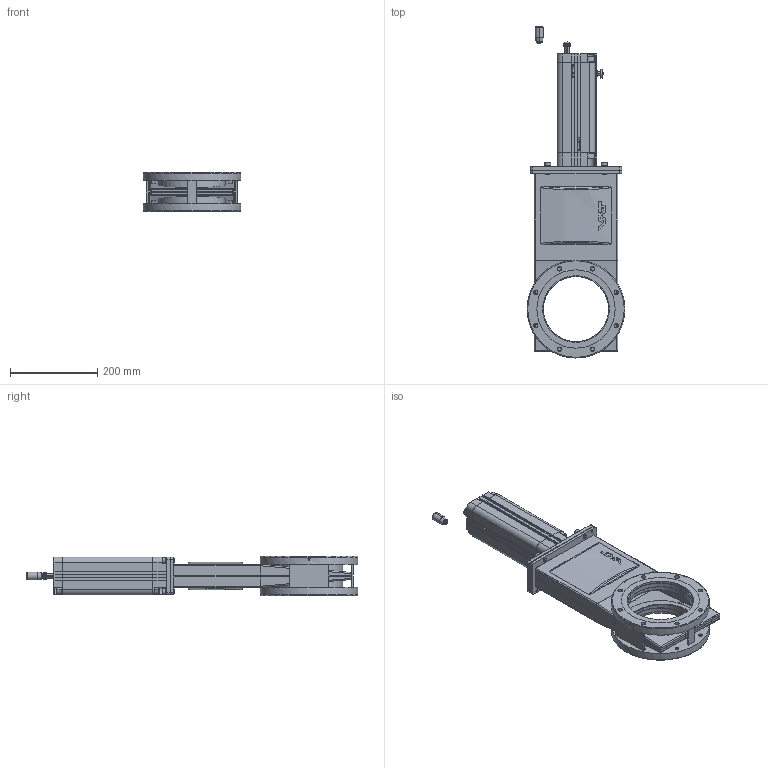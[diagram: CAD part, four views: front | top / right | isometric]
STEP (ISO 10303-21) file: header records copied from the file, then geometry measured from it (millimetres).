
FILE_DESCRIPTION(/* description */ (''),/* implementation_level */ '2;1');
FILE_NAME(/* name */ '1007055321_203.stp',/* time_stamp */ '2009-12-04T09:00:00+01:00',/* author */ (''),/* organization */ (''),/* preprocessor_version */ 'ST-DEVELOPER v11',/* originating_system */ 'UGS - NX 5.0',/* authorisation */ '');
FILE_SCHEMA (('CONFIG_CONTROL_DESIGN'));
Length unit declared in the file: millimetre
Products named in the file (37): 261361.5; 339067.1; 301626.1; 255736.1; 255802.2; n-6131-414; n-6195-408; N-6092-038.1; N-6066-009.1; 260826.1; 261365.3; 259431.1; 261368.5; 261364.3; 335391.1; 261363.3; 332689.2; 301646.1; 261369.1; 255792.2; 313588.1; 255788.2; 307166.2; 307161.2; 255781.4; 261336.1; N-6092-118.1; 255217.1; 228777; n-6134-409.1; 255558.4; 261362.6; 348483.1; 255803.6; 313594.3; 261337.1; 415447
Assembly tree (52 placements, depth 4):
  415447
    255558.4
    261337.1
      N-6092-118.1  x2
      261336.1
    n-6134-409.1  x4
    228777  x4
    313594.3
      255781.4
      307161.2
      307166.2
      255788.2  x2
      313588.1  x2
      255803.6
        255802.2  x2
        255736.1
      255792.2
    255217.1  x2
    348483.1
      261369.1  x4
      301646.1
      332689.2
      261363.3
      335391.1
      261364.3
      261368.5
      261362.6
        301626.1
        339067.1
        261361.5
      259431.1
      261365.3
      260826.1
      N-6066-009.1  x2
      N-6092-038.1
      n-6195-408
      n-6131-414  x2
Bounding box: 224.8 x 763.1 x 90 mm (x, y, z)
Volume: 2624780.3 mm3; surface area: 964181.8 mm2
Topology: 57 solids, 57 shells, 1716 faces, 4339 edges, 2834 vertices
Faces by surface type: plane 810, cylinder 537, bspline 183, cone 93, revolution 78, torus 9, sphere 6
Full cylindrical faces by diameter (mm): 2 x1, 2.2 x1, 3.17 x1, 4 x2, 4.985 x1, 4.991 x3, 5 x2, 5.124 x2, 5.22 x4, 5.3 x1, 6.66 x4, 6.7 x4, 6.8 x3, 7.976 x1, 8 x17, 8.4 x7, 8.5 x26, 9.976 x1, 9.989 x1, 10 x22, 10.008 x1, 11 x2, 13 x4, 13.586 x2, 13.626 x2, 15 x7, 15.2 x1, 15.4 x4, 16 x2, 16.2 x1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
Entity records: 54974 total; most frequent: CARTESIAN_POINT 19850, ORIENTED_EDGE 6212, DIRECTION 6097, EDGE_CURVE 3106, AXIS2_PLACEMENT_3D 2182, VERTEX_POINT 2159, LINE 1693, VECTOR 1693
